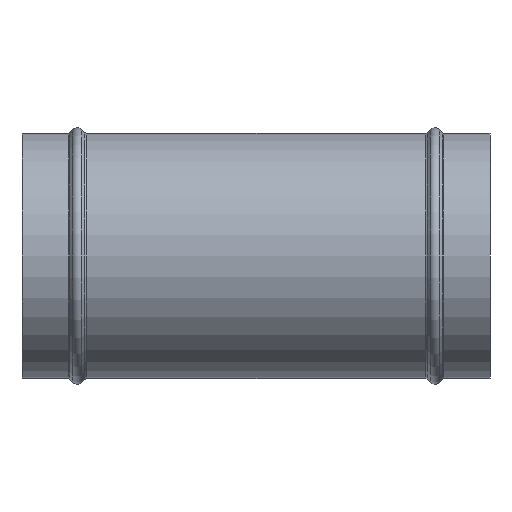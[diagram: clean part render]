
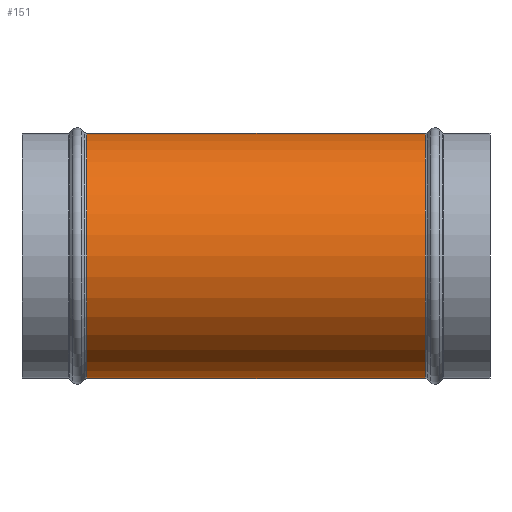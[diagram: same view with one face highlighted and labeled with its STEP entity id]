
A CAD part, front view. The second image highlights one B-rep face of the part: STEP entity #151.
In plain terms, the highlighted cylindrical face has radius 76.5 mm (diameter 153 mm), a full revolution.
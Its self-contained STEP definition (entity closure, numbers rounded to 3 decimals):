
#151=ADVANCED_FACE('',(#227,#228,#229),#178,.T.);
#178=CYLINDRICAL_SURFACE('',#623,76.5);
#184=B_SPLINE_CURVE_WITH_KNOTS('',3,(#898,#899,#900,#901,#902,#903,#904,
#905,#906,#907,#908,#909,#910,#911,#912,#913,#914,#915,#916,#917,#918,#919,
#920,#921,#922,#923,#924,#925,#926,#927,#928,#929,#930,#931,#932,#933,#934,
#935,#936,#937,#938,#939,#940,#941,#942,#943,#944,#945,#946,#947,#948,#949,
#950,#951),.UNSPECIFIED.,.T.,.F.,(2,2,2,2,2,2,2,2,2,2,2,2,2,2,2,2,2,2,2,
2,2,2,2,2,2,2,2,2,2),(-0.062,0.,0.031,0.063,0.094,0.125,
0.156,0.188,0.25,0.313,0.375,0.438,0.469,0.484,0.5,0.531,0.563,
0.594,0.625,0.687,0.75,0.781,0.813,0.844,
0.875,0.906,0.938,1.,1.031),.UNSPECIFIED.);
#227=FACE_BOUND('',#315,.T.);
#228=FACE_BOUND('',#316,.T.);
#229=FACE_BOUND('',#317,.T.);
#315=EDGE_LOOP('',(#403));
#316=EDGE_LOOP('',(#404));
#317=EDGE_LOOP('',(#405));
#403=ORIENTED_EDGE('',*,*,#496,.F.);
#404=ORIENTED_EDGE('',*,*,#515,.F.);
#405=ORIENTED_EDGE('',*,*,#516,.T.);
#452=VERTEX_POINT('',#952);
#471=VERTEX_POINT('',#1009);
#472=VERTEX_POINT('',#1012);
#496=EDGE_CURVE('',#452,#452,#184,.T.);
#515=EDGE_CURVE('',#471,#471,#557,.T.);
#516=EDGE_CURVE('',#472,#472,#558,.T.);
#557=CIRCLE('',#620,76.5);
#558=CIRCLE('',#622,76.5);
#620=AXIS2_PLACEMENT_3D('',#1008,#747,#748);
#622=AXIS2_PLACEMENT_3D('',#1011,#751,#752);
#623=AXIS2_PLACEMENT_3D('',#1013,#753,#754);
#747=DIRECTION('',(1.,0.,0.));
#748=DIRECTION('',(0.,0.,-1.));
#751=DIRECTION('',(1.,0.,0.));
#752=DIRECTION('',(0.,0.,-1.));
#753=DIRECTION('',(1.,0.,0.));
#754=DIRECTION('',(0.,0.,-1.));
#898=CARTESIAN_POINT('',(-73.396,76.5,6.991));
#899=CARTESIAN_POINT('',(-73.396,76.5,-3.496));
#900=CARTESIAN_POINT('',(-73.758,76.262,-6.918));
#901=CARTESIAN_POINT('',(-75.21,75.354,-13.62));
#902=CARTESIAN_POINT('',(-76.315,74.676,-16.896));
#903=CARTESIAN_POINT('',(-79.215,73.049,-22.931));
#904=CARTESIAN_POINT('',(-81.054,72.077,-25.777));
#905=CARTESIAN_POINT('',(-85.381,70.082,-30.791));
#906=CARTESIAN_POINT('',(-87.856,69.063,-32.968));
#907=CARTESIAN_POINT('',(-93.468,67.164,-36.683));
#908=CARTESIAN_POINT('',(-96.484,66.326,-38.142));
#909=CARTESIAN_POINT('',(-102.892,64.968,-40.412));
#910=CARTESIAN_POINT('',(-106.268,64.456,-41.208));
#911=CARTESIAN_POINT('',(-116.429,63.458,-42.742));
#912=CARTESIAN_POINT('',(-123.472,63.486,-42.69));
#913=CARTESIAN_POINT('',(-137.101,64.413,-41.278));
#914=CARTESIAN_POINT('',(-143.822,65.3,-39.915));
#915=CARTESIAN_POINT('',(-156.914,67.509,-36.052));
#916=CARTESIAN_POINT('',(-163.187,68.816,-33.592));
#917=CARTESIAN_POINT('',(-175.095,71.556,-27.273));
#918=CARTESIAN_POINT('',(-180.829,73.023,-23.377));
#919=CARTESIAN_POINT('',(-187.779,74.881,-15.865));
#920=CARTESIAN_POINT('',(-189.795,75.436,-13.101));
#921=CARTESIAN_POINT('',(-192.017,76.054,-8.398));
#922=CARTESIAN_POINT('',(-192.601,76.218,-6.777));
#923=CARTESIAN_POINT('',(-193.401,76.443,-3.407));
#924=CARTESIAN_POINT('',(-193.61,76.502,-1.651));
#925=CARTESIAN_POINT('',(-193.592,76.497,3.526));
#926=CARTESIAN_POINT('',(-192.708,76.246,6.979));
#927=CARTESIAN_POINT('',(-189.717,75.415,13.222));
#928=CARTESIAN_POINT('',(-187.678,74.854,15.993));
#929=CARTESIAN_POINT('',(-183.026,73.611,20.982));
#930=CARTESIAN_POINT('',(-180.414,72.93,23.192));
#931=CARTESIAN_POINT('',(-174.947,71.557,27.133));
#932=CARTESIAN_POINT('',(-172.065,70.858,28.885));
#933=CARTESIAN_POINT('',(-163.07,68.79,33.647));
#934=CARTESIAN_POINT('',(-156.766,67.482,36.101));
#935=CARTESIAN_POINT('',(-143.812,65.3,39.913));
#936=CARTESIAN_POINT('',(-137.063,64.408,41.287));
#937=CARTESIAN_POINT('',(-126.79,63.714,42.344));
#938=CARTESIAN_POINT('',(-123.357,63.591,42.526));
#939=CARTESIAN_POINT('',(-116.47,63.629,42.469));
#940=CARTESIAN_POINT('',(-112.984,63.794,42.225));
#941=CARTESIAN_POINT('',(-106.193,64.465,41.193));
#942=CARTESIAN_POINT('',(-102.883,64.97,40.41));
#943=CARTESIAN_POINT('',(-96.471,66.33,38.137));
#944=CARTESIAN_POINT('',(-93.429,67.177,36.657));
#945=CARTESIAN_POINT('',(-87.899,69.049,32.996));
#946=CARTESIAN_POINT('',(-85.364,70.09,30.772));
#947=CARTESIAN_POINT('',(-81.059,72.075,25.781));
#948=CARTESIAN_POINT('',(-79.229,73.041,22.958));
#949=CARTESIAN_POINT('',(-74.852,75.497,13.855));
#950=CARTESIAN_POINT('',(-73.396,76.5,6.991));
#951=CARTESIAN_POINT('',(-73.396,76.5,-3.496));
#952=CARTESIAN_POINT('',(-73.396,76.5,0.));
#1008=CARTESIAN_POINT('',(-40.278,0.,0.));
#1009=CARTESIAN_POINT('',(-40.278,0.,-76.5));
#1011=CARTESIAN_POINT('',(-251.722,0.,0.));
#1012=CARTESIAN_POINT('',(-251.722,0.,-76.5));
#1013=CARTESIAN_POINT('',(-292.,0.,0.));
